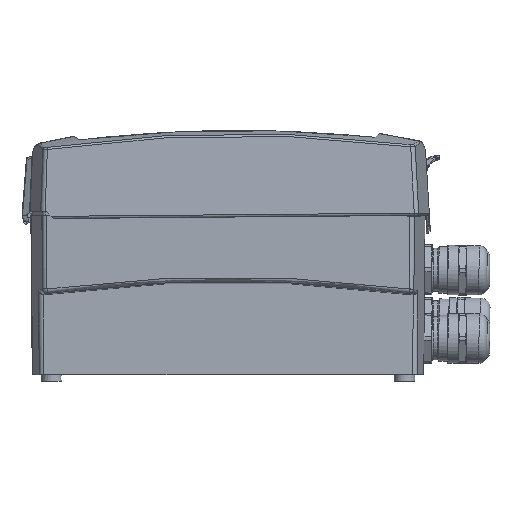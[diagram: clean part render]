
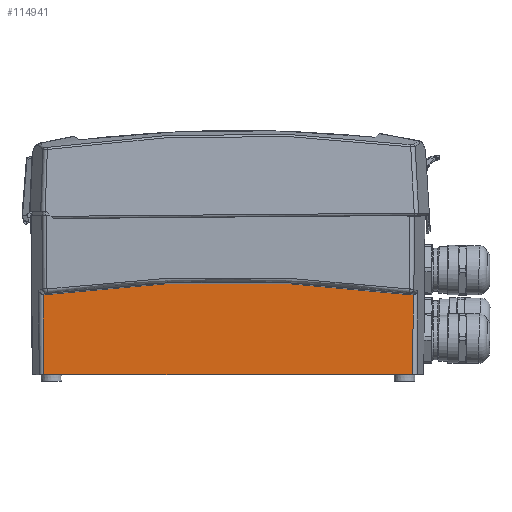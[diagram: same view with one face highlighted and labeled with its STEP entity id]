
A CAD part, left-side view. The second image highlights one B-rep face of the part: STEP entity #114941.
In plain terms, the highlighted planar face has unit normal (-1, 0, -0.009).
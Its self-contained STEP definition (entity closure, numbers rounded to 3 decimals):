
#5598=PLANE('',#122229);
#9559=ELLIPSE('',#122182,1.774,1.52);
#9564=ELLIPSE('',#122194,1.774,1.52);
#9572=ELLIPSE('',#122227,599.229,599.207);
#14164=FACE_OUTER_BOUND('',#20579,.T.);
#20579=EDGE_LOOP('',(#85271,#85272,#85273,#85274,#85275,#85276));
#27427=LINE('',#162821,#39564);
#27868=LINE('',#171008,#40005);
#27869=LINE('',#171010,#40006);
#39564=VECTOR('',#131271,161.945);
#40005=VECTOR('',#133284,35.023);
#40006=VECTOR('',#133287,35.05);
#53636=VERTEX_POINT('',#162817);
#53638=VERTEX_POINT('',#162820);
#54113=VERTEX_POINT('',#170550);
#54114=VERTEX_POINT('',#170551);
#54120=VERTEX_POINT('',#170724);
#54122=VERTEX_POINT('',#170742);
#65121=EDGE_CURVE('',#53636,#53638,#27427,.F.);
#66034=EDGE_CURVE('',#54113,#54114,#9559,.F.);
#66047=EDGE_CURVE('',#54120,#54122,#9564,.T.);
#66072=EDGE_CURVE('',#54120,#53636,#27868,.T.);
#66073=EDGE_CURVE('',#53638,#54113,#27869,.T.);
#66079=EDGE_CURVE('',#54122,#54114,#9572,.F.);
#85271=ORIENTED_EDGE('',*,*,#66072,.F.);
#85272=ORIENTED_EDGE('',*,*,#66047,.T.);
#85273=ORIENTED_EDGE('',*,*,#66079,.T.);
#85274=ORIENTED_EDGE('',*,*,#66034,.F.);
#85275=ORIENTED_EDGE('',*,*,#66073,.F.);
#85276=ORIENTED_EDGE('',*,*,#65121,.F.);
#114941=ADVANCED_FACE('',(#14164),#5598,.F.);
#122182=AXIS2_PLACEMENT_3D('',#170552,#133200,#133201);
#122194=AXIS2_PLACEMENT_3D('',#170744,#133224,#133225);
#122227=AXIS2_PLACEMENT_3D('',#171021,#133304,#133305);
#122229=AXIS2_PLACEMENT_3D('',#171023,#133308,#133309);
#131271=DIRECTION('',(0.,-1.,0.));
#133200=DIRECTION('center_axis',(1.,0.,
0.009));
#133201=DIRECTION('ref_axis',(0.001,-0.995,-0.1));
#133224=DIRECTION('center_axis',(1.,0.,
0.009));
#133225=DIRECTION('ref_axis',(-0.001,-0.995,
0.1));
#133284=DIRECTION('',(0.009,0.007,-1.));
#133287=DIRECTION('',(-0.009,0.007,1.));
#133304=DIRECTION('center_axis',(1.,0.,0.009));
#133305=DIRECTION('ref_axis',(-0.009,0.,1.));
#133308=DIRECTION('center_axis',(1.,0.,0.009));
#133309=DIRECTION('ref_axis',(0.009,0.,-1.));
#162817=CARTESIAN_POINT('',(-102.238,-93.574,-40.));
#162820=CARTESIAN_POINT('',(-102.238,68.371,-40.));
#162821=CARTESIAN_POINT('',(-102.238,68.371,-40.));
#170550=CARTESIAN_POINT('',(-102.544,68.627,-4.952));
#170551=CARTESIAN_POINT('',(-102.544,68.042,-4.957));
#170552=CARTESIAN_POINT('Origin',(-102.557,68.371,-3.453));
#170724=CARTESIAN_POINT('',(-102.544,-93.83,-4.979));
#170742=CARTESIAN_POINT('',(-102.544,-93.244,-4.984));
#170744=CARTESIAN_POINT('Origin',(-102.557,-93.573,-3.48));
#171008=CARTESIAN_POINT('',(-102.544,-93.83,-4.979));
#171010=CARTESIAN_POINT('',(-102.238,68.371,-40.));
#171021=CARTESIAN_POINT('Origin',(-97.362,-12.5,-598.726));
#171023=CARTESIAN_POINT('Origin',(-102.358,-12.5,-26.222));
